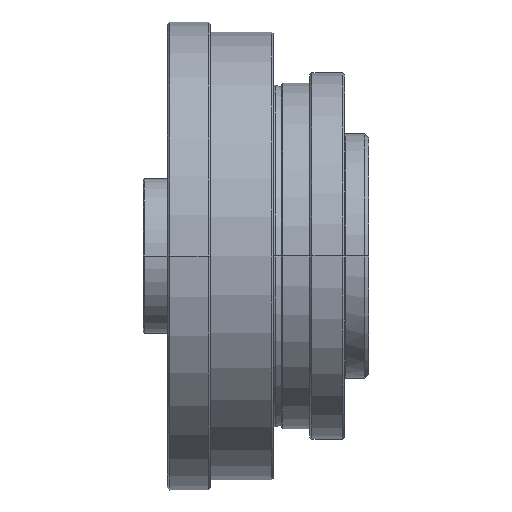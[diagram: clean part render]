
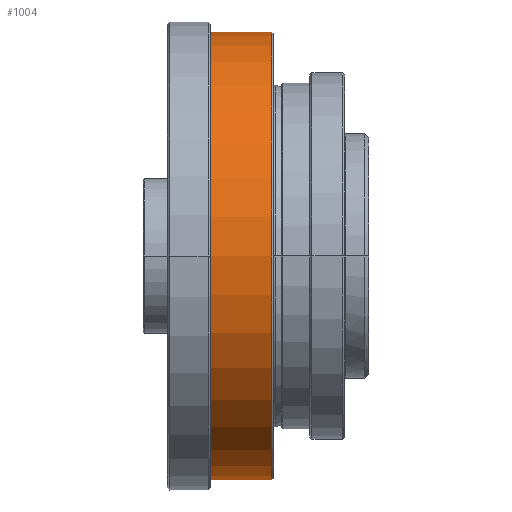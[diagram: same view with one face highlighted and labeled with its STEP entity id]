
A CAD part, front view. The second image highlights one B-rep face of the part: STEP entity #1004.
In plain terms, the highlighted cylindrical face has radius 55 mm (diameter 110 mm), a partial arc.
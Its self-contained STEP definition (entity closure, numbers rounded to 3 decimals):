
#1004=ADVANCED_FACE('NONE',(#2290),#2291,.T.);
#2290=FACE_OUTER_BOUND('',#4019,.T.);
#2291=CYLINDRICAL_SURFACE('',#4020,55.0);
#4019=EDGE_LOOP('',(#6890,#6891,#6892,#6893,#6894));
#4020=AXIS2_PLACEMENT_3D('',#6895,#6896,#6897);
#6890=ORIENTED_EDGE('',*,*,#9307,.F.);
#6891=ORIENTED_EDGE('',*,*,#9314,.T.);
#6892=ORIENTED_EDGE('',*,*,#10074,.T.);
#6893=ORIENTED_EDGE('',*,*,#9308,.T.);
#6894=ORIENTED_EDGE('',*,*,#10054,.F.);
#6895=CARTESIAN_POINT('',(16.65,0.0,0.0));
#6896=DIRECTION('',(-1.0,0.0,0.0));
#6897=DIRECTION('',(0.0,0.0,-1.0));
#9307=EDGE_CURVE('NONE',#11023,#10970,#11025,.T.);
#9308=EDGE_CURVE('NONE',#11026,#10968,#11027,.T.);
#9314=EDGE_CURVE('NONE',#11023,#11034,#11036,.T.);
#10054=EDGE_CURVE('NONE',#10970,#10968,#12205,.T.);
#10074=EDGE_CURVE('NONE',#11034,#11026,#12229,.T.);
#10968=VERTEX_POINT('NONE',#13425);
#10970=VERTEX_POINT('NONE',#13428);
#11023=VERTEX_POINT('NONE',#13520);
#11025=LINE('',#13522,#13523);
#11026=VERTEX_POINT('NONE',#13524);
#11027=LINE('',#13525,#13526);
#11034=VERTEX_POINT('NONE',#13534);
#11036=CIRCLE('',#13537,55.0);
#12205=CIRCLE('',#15002,55.);
#12229=CIRCLE('',#15060,55.0);
#13425=CARTESIAN_POINT('',(25.6,0.,-55.));
#13428=CARTESIAN_POINT('',(25.6,0.,55.));
#13520=CARTESIAN_POINT('',(10.,0.,55.0));
#13522=CARTESIAN_POINT('',(16.65,0.,55.0));
#13523=VECTOR('',#16387,1000.0);
#13524=CARTESIAN_POINT('',(10.,0.0,-55.0));
#13525=CARTESIAN_POINT('',(16.65,0.0,-55.0));
#13526=VECTOR('',#16388,1000.0);
#13534=CARTESIAN_POINT('',(10.,-55.0,0.));
#13537=AXIS2_PLACEMENT_3D('',#16397,#16398,#16399);
#15002=AXIS2_PLACEMENT_3D('',#17479,#17480,#17481);
#15060=AXIS2_PLACEMENT_3D('',#17503,#17504,#17505);
#16387=DIRECTION('',(1.0,0.0,0.0));
#16388=DIRECTION('',(1.0,0.0,0.0));
#16397=CARTESIAN_POINT('',(10.,0.0,0.0));
#16398=DIRECTION('',(1.0,0.0,0.0));
#16399=DIRECTION('',(0.0,0.0,-1.0));
#17479=CARTESIAN_POINT('',(25.6,0.0,0.0));
#17480=DIRECTION('',(1.0,0.0,0.));
#17481=DIRECTION('',(0.,0.0,1.0));
#17503=CARTESIAN_POINT('',(10.,0.0,0.0));
#17504=DIRECTION('',(1.0,0.0,0.0));
#17505=DIRECTION('',(0.0,0.0,-1.0));
